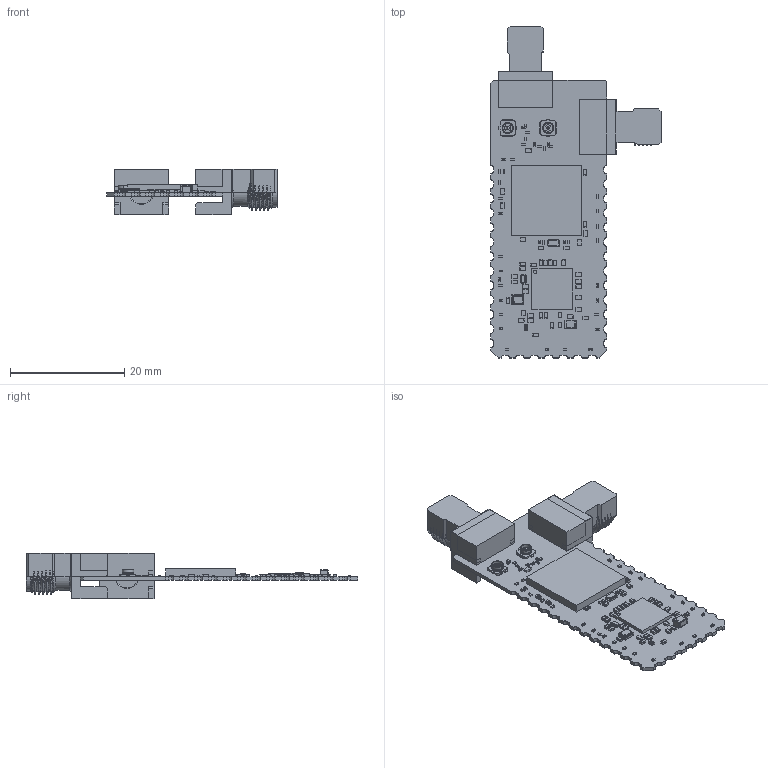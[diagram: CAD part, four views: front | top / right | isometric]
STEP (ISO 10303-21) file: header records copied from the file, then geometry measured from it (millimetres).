
FILE_DESCRIPTION(('Open CASCADE Model'),'2;1');
FILE_NAME('Open CASCADE Shape Model','2025-04-18T14:11:37',('Author'),( 'Open CASCADE'),'Open CASCADE STEP processor 7.5','Open CASCADE 7.5' ,'Unknown');
FILE_SCHEMA(('AUTOMOTIVE_DESIGN { 1 0 10303 214 1 1 1 1 }'));
Length unit declared in the file: millimetre
Products named in the file (145): PCB; Board; Open CASCADE STEP translator 7.5 4.1.1; R52; res0201-H0P23; 7097420816; Extruded; R51; R50; R49; 7097421216; U3; 7178063584; Cylinder; 7178063424; 7178063264; R47; R46; R45; R44; R39; R38; R37; R36; R34; CN7; U.FL-R-SMT-1; CN6; CN5; SMA_CINCH-JOHN_142-0701-851; 7178063824; CN4; 7097420576; U2; 7117640800; R33; R0402; 7117640640; C46; C0402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
Assembly tree (303 placements, depth 4):
  PCB
    Board
      Open CASCADE STEP translator 7.5 4.1.1
    R52
      res0201-H0P23
      7097420816
        Extruded
    R51
      res0201-H0P23
      7097420816
        Extruded
    R50
      res0201-H0P23
      7097420816
        Extruded
    R49
      res0201-H0P23
      7097421216
        Extruded
    U3
      7178063584
        Cylinder
      7178063424
        Extruded
      7178063264  x6
        Extruded
    R47
      res0201-H0P23
      7097421216
        Extruded
    R46
      res0201-H0P23
      7097421216
        Extruded
    R45
      res0201-H0P23
      7097421216
        Extruded
    R44
      res0201-H0P23
      7097420816
        Extruded
    R39
      res0201-H0P23
      7097420816
        Extruded
    R38
      res0201-H0P23
      7097420816
        Extruded
    R37
      res0201-H0P23
      7097420816
        Extruded
    R36
      res0201-H0P23
      7097421216
        Extruded
    R34
      res0201-H0P23
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Bounding box: 29.87 x 58.2 x 7.92 mm (x, y, z)
Volume: 2400.6 mm3; surface area: 4806.2 mm2
Topology: 196 solids, 202 shells, 6955 faces, 16406 edges, 9739 vertices
Faces by surface type: plane 3687, cylinder 1730, bspline 962, revolution 292, sphere 220, torus 36, cone 28
Full cylindrical faces by diameter (mm): 0.2 x1, 0.6 x1, 0.991 x2, 4.674 x2, 5.08 x2, 5.385 x2
Entity records: 40880 total; most frequent: CARTESIAN_POINT 10249, DIRECTION 5487, ORIENTED_EDGE 5046, EDGE_CURVE 2524, AXIS2_PLACEMENT_3D 1849, LINE 1779, VECTOR 1779, VERTEX_POINT 1573
